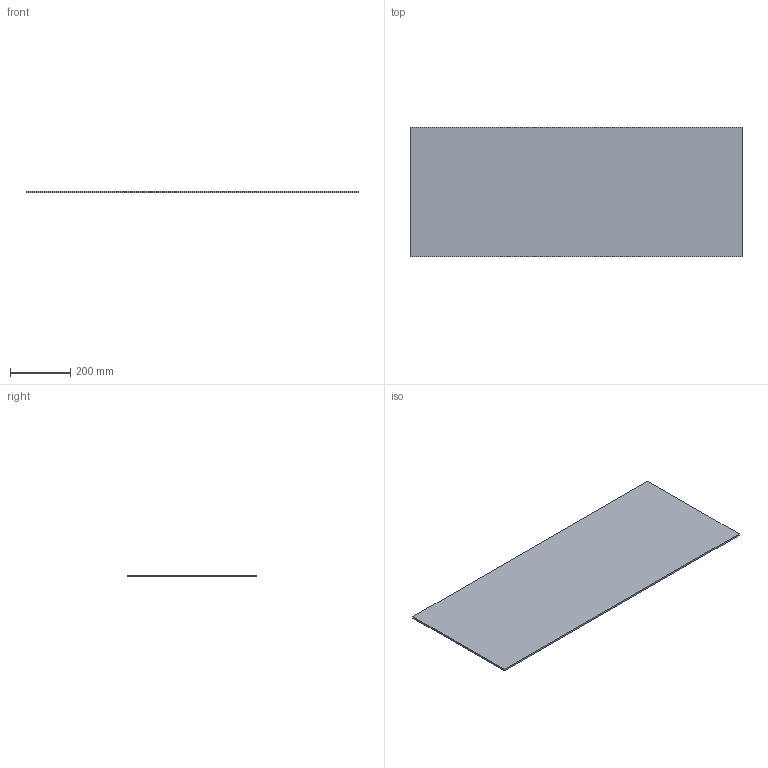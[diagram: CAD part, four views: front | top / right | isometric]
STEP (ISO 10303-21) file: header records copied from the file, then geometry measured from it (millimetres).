
FILE_DESCRIPTION (( 'STEP AP214' ), '1' );
FILE_NAME ('Lochblech_NL450_KAB1200_19.step', '2010-10-11T13:38:32', ( 'grass' ), ( '' ), 'SwSTEP 2.0', 'SolidWorks 2010', '' );
FILE_SCHEMA (( 'AUTOMOTIVE_DESIGN' ));
Length unit declared in the file: millimetre
Products named in the file (1): Lochblech_NL450_KAB1200_19
Bounding box: 1102 x 429 x 6 mm (x, y, z)
Volume: 2836548 mm3; surface area: 963888 mm2
Topology: 1 solids, 1 shells, 6 faces, 12 edges, 8 vertices
Faces by surface type: plane 6
Entity records: 190 total; most frequent: CARTESIAN_POINT 27, DIRECTION 26, ORIENTED_EDGE 24, EDGE_CURVE 12, LINE 12, VECTOR 12, VERTEX_POINT 8, AXIS2_PLACEMENT_3D 7
